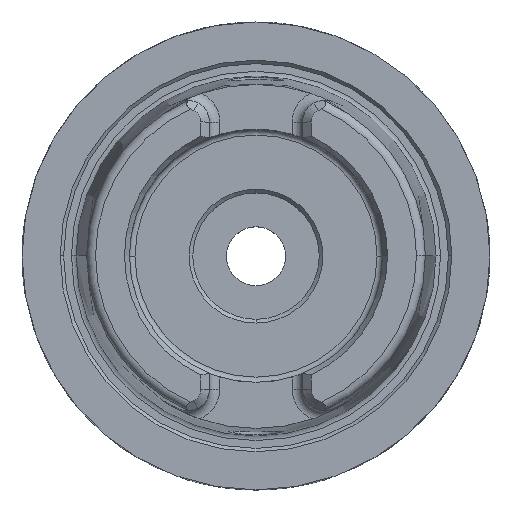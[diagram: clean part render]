
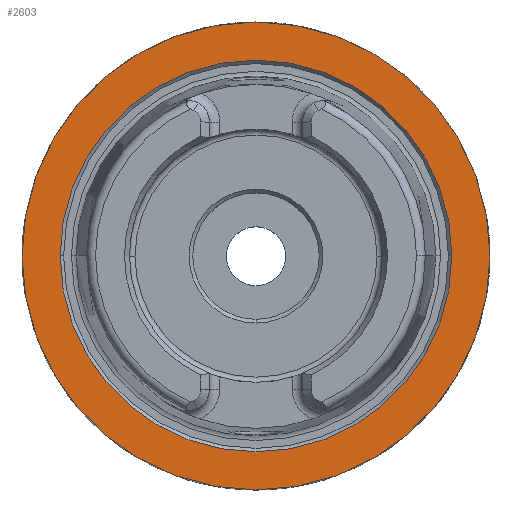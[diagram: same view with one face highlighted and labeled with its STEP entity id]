
A CAD part, top view. The second image highlights one B-rep face of the part: STEP entity #2603.
In plain terms, the highlighted planar face has unit normal (0, 0, 1).
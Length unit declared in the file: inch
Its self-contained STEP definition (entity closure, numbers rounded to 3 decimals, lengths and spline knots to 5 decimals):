
#17 = EDGE_CURVE ( 'NONE', #2139, #3065, #7494, .T. ) ;
#151 = ORIENTED_EDGE ( 'NONE', *, *, #17, .F. ) ;
#229 = FACE_BOUND ( 'NONE', #1038, .T. ) ;
#624 = ORIENTED_EDGE ( 'NONE', *, *, #7370, .F. ) ;
#836 = DIRECTION ( 'NONE',  ( 0., 0., -1. ) ) ;
#925 = DIRECTION ( 'NONE',  ( 0., 0., 1. ) ) ;
#1006 = DIRECTION ( 'NONE',  ( 0., 0., 1. ) ) ;
#1038 = EDGE_LOOP ( 'NONE', ( #151, #624 ) ) ;
#1039 = EDGE_CURVE ( 'NONE', #5239, #2105, #4459, .T. ) ;
#1336 = AXIS2_PLACEMENT_3D ( 'NONE', #4428, #1006, #5118 ) ;
#1918 = CIRCLE ( 'NONE', #1336, 1.03689 ) ;
#2105 = VERTEX_POINT ( 'NONE', #6399 ) ;
#2139 = VERTEX_POINT ( 'NONE', #8422 ) ;
#2452 = DIRECTION ( 'NONE',  ( 0., 0., 1. ) ) ;
#2603 = ADVANCED_FACE ( 'NONE', ( #4580, #229 ), #6674, .T. ) ;
#2747 = ORIENTED_EDGE ( 'NONE', *, *, #1039, .F. ) ;
#3065 = VERTEX_POINT ( 'NONE', #4255 ) ;
#3135 = CARTESIAN_POINT ( 'NONE',  ( 0., 0., 0. ) ) ;
#3418 = CARTESIAN_POINT ( 'NONE',  ( 0., 0., 0. ) ) ;
#3817 = EDGE_CURVE ( 'NONE', #2105, #5239, #7133, .T. ) ;
#4143 = DIRECTION ( 'NONE',  ( -1., 0., 0. ) ) ;
#4255 = CARTESIAN_POINT ( 'NONE',  ( -1.03689, 0., 0. ) ) ;
#4295 = AXIS2_PLACEMENT_3D ( 'NONE', #3135, #2452, #5293 ) ;
#4428 = CARTESIAN_POINT ( 'NONE',  ( 0., 0., 0. ) ) ;
#4459 = CIRCLE ( 'NONE', #8249, 1.23898 ) ;
#4580 = FACE_OUTER_BOUND ( 'NONE', #8240, .T. ) ;
#4874 = DIRECTION ( 'NONE',  ( 0., 0., -1. ) ) ;
#5118 = DIRECTION ( 'NONE',  ( 1., 0., 0. ) ) ;
#5239 = VERTEX_POINT ( 'NONE', #5750 ) ;
#5249 = AXIS2_PLACEMENT_3D ( 'NONE', #8041, #925, #5772 ) ;
#5293 = DIRECTION ( 'NONE',  ( 1., 0., 0. ) ) ;
#5623 = ORIENTED_EDGE ( 'NONE', *, *, #3817, .F. ) ;
#5713 = CARTESIAN_POINT ( 'NONE',  ( 0., 0., 0. ) ) ;
#5750 = CARTESIAN_POINT ( 'NONE',  ( -1.23898, 0., 0. ) ) ;
#5772 = DIRECTION ( 'NONE',  ( 1., 0., 0. ) ) ;
#5813 = DIRECTION ( 'NONE',  ( -1., 0., 0. ) ) ;
#6399 = CARTESIAN_POINT ( 'NONE',  ( 1.23898, 0., 0. ) ) ;
#6674 = PLANE ( 'NONE',  #5249 ) ;
#6847 = AXIS2_PLACEMENT_3D ( 'NONE', #5713, #836, #5813 ) ;
#7133 = CIRCLE ( 'NONE', #6847, 1.23898 ) ;
#7370 = EDGE_CURVE ( 'NONE', #3065, #2139, #1918, .T. ) ;
#7494 = CIRCLE ( 'NONE', #4295, 1.03689 ) ;
#8041 = CARTESIAN_POINT ( 'NONE',  ( 0., 0.9575, 0. ) ) ;
#8240 = EDGE_LOOP ( 'NONE', ( #2747, #5623 ) ) ;
#8249 = AXIS2_PLACEMENT_3D ( 'NONE', #3418, #4874, #4143 ) ;
#8422 = CARTESIAN_POINT ( 'NONE',  ( 1.03689, 0., 0. ) ) ;
